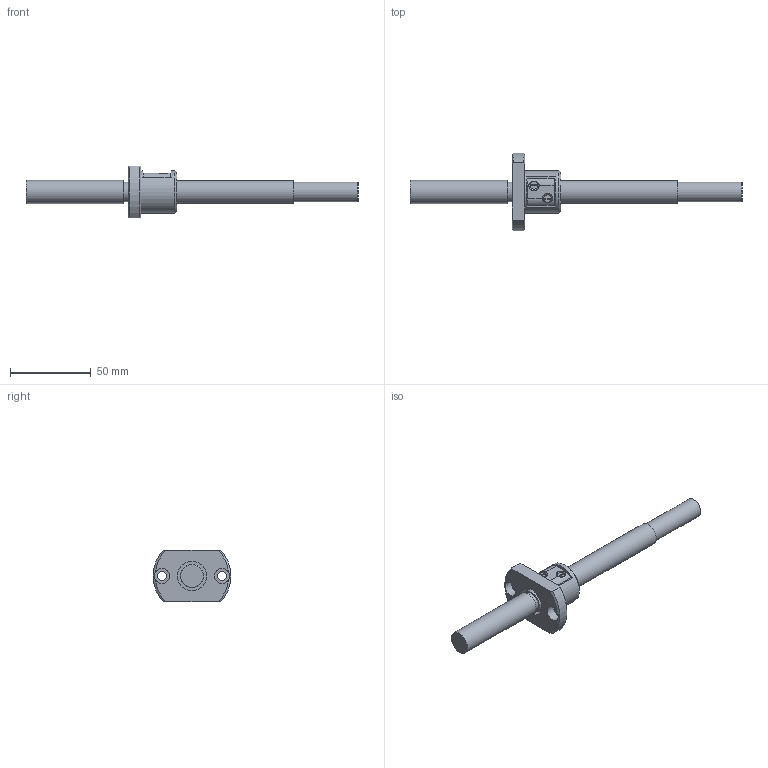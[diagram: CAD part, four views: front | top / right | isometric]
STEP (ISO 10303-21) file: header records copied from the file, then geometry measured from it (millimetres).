
FILE_DESCRIPTION(/* description */ ('STEP AP203'),/* implementation_level */ '2;1');
FILE_NAME(/* name */ 'MBF1402-3.7RRGT+205LC3A(0)',/* time_stamp */ '2024-07-15T08:03:34+02:00',/* author */ ('License CC BY-ND 4.0'),/* organization */ ('CADENAS'),/* preprocessor_version */ 'ST-DEVELOPER v19.3',/* originating_system */ 'PARTsolutions',/* authorisation */ ' ');
FILE_SCHEMA (('CONFIG_CONTROL_DESIGN'));
Length unit declared in the file: millimetre
Products named in the file (3): MBF1402-3.7RRGT+205LC3A(0); MBF1402-3.7RRGT+205LC3A(.0)_shaft; MBF 1402-3.7_nut
Assembly tree (2 placements, depth 2):
  MBF1402-3.7RRGT+205LC3A(0)
    MBF1402-3.7RRGT+205LC3A(.0)_shaft
    MBF 1402-3.7_nut
Bounding box: 205 x 47.84 x 32 mm (x, y, z)
Volume: 46617.3 mm3; surface area: 16481.7 mm2
Topology: 2 solids, 2 shells, 67 faces, 160 edges, 105 vertices
Faces by surface type: plane 34, cylinder 20, cone 13
Full cylindrical faces by diameter (mm): 5.5 x2, 9.5 x2, 12.2 x2, 14 x2, 14.3 x1, 18 x2, 26 x1
Entity records: 1961 total; most frequent: CARTESIAN_POINT 418, DIRECTION 304, ORIENTED_EDGE 278, EDGE_CURVE 139, AXIS2_PLACEMENT_3D 127, VERTEX_POINT 101, EDGE_LOOP 98, FACE_BOUND 98
